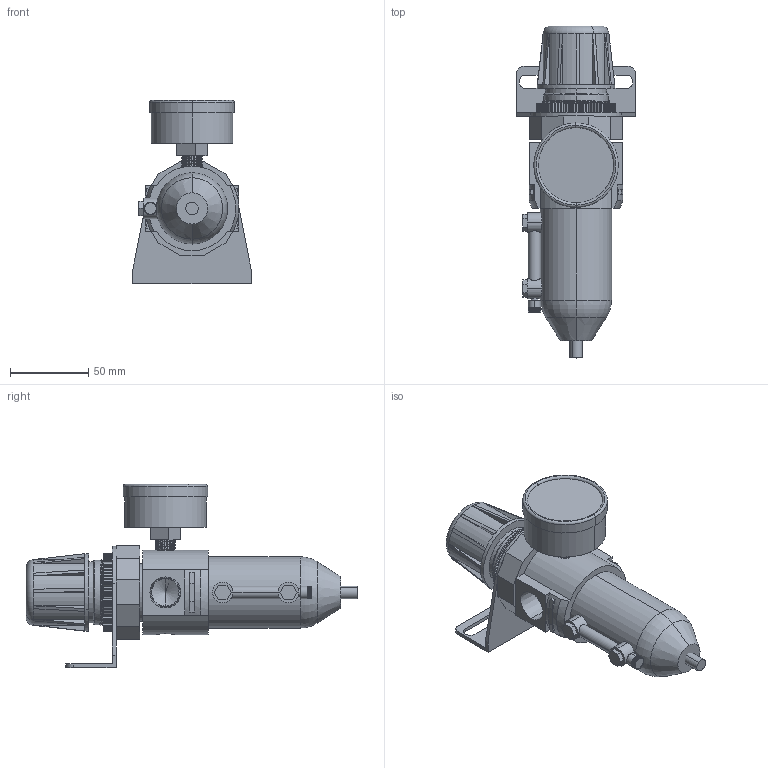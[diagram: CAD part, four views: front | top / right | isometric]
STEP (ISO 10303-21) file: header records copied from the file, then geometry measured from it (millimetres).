
FILE_DESCRIPTION (( 'STEP AP203' ), '1' );
FILE_NAME ('B011W-04#YGB#.STEP', '2016-02-16T03:15:17', ( '' ), ( '' ), 'SwSTEP 2.0', 'SolidWorks 2014', '' );
FILE_SCHEMA (( 'CONFIG_CONTROL_DESIGN' ));
Length unit declared in the file: millimetre
Products named in the file (16): B011W-04#YGB#; R010-3; 50-P-AD=1-4PT-1; D011W-5; L606-W-06-5; D011W-6; 50-P-AD=1-4PT.SLDPRT; B011W-04; KWSAR10Y57-1; D011W-4; KWR10X51; 50-P-AD=1-4PT-2; R010-4; KWSAR10Y57
Assembly tree (16 placements, depth 4):
  B011W-04#YGB#
    B011W-04
    50-P-AD=1-4PT.SLDPRT
      50-P-AD=1-4PT-1
      50-P-AD=1-4PT-2
    L606-W-06-5
    (unnamed)
      R010-3
      R010-4
      KWSAR10Y57
        KWSAR10Y57-1
        KWR10X51
    (unnamed)
      D011W-5  x2
      D011W-4
      D011W-6
Bounding box: 76 x 212 x 117 mm (x, y, z)
Volume: 415475.8 mm3; surface area: 78336.2 mm2
Topology: 12 solids, 12 shells, 727 faces, 1993 edges, 1301 vertices
Faces by surface type: plane 504, cylinder 187, cone 22, torus 10, bspline 4
Entity records: 27117 total; most frequent: CARTESIAN_POINT 7116, ORIENTED_EDGE 3922, DIRECTION 3776, EDGE_CURVE 1961, VECTOR 1356, LINE 1356, VERTEX_POINT 1285, AXIS2_PLACEMENT_3D 1210
